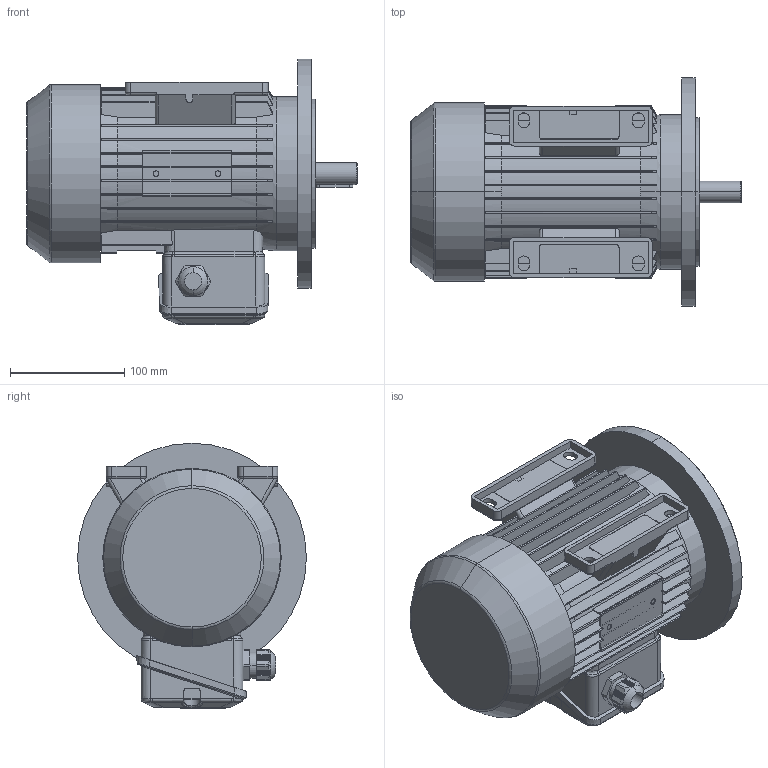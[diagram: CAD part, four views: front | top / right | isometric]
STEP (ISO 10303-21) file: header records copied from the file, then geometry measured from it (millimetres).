
FILE_DESCRIPTION (( 'STEP AP214' ), '1' );
FILE_NAME ('MAP80M2B IM2041 A200 FF165.STEP', '2020-12-18T10:46:54', ( '' ), ( '' ), 'SwSTEP 2.0', 'SolidWorks 2018', '' );
FILE_SCHEMA (( 'AUTOMOTIVE_DESIGN' ));
Length unit declared in the file: millimetre
Products named in the file (1): MAP80M2B IM2041 A200 FF165
Bounding box: 289 x 200 x 232 mm (x, y, z)
Volume: 4560626.1 mm3; surface area: 343888.7 mm2
Topology: 2 solids, 6 shells, 1264 faces, 3335 edges, 2083 vertices
Faces by surface type: plane 635, cylinder 332, bspline 182, torus 59, cone 54, sphere 2
Entity records: 48624 total; most frequent: CARTESIAN_POINT 19273, ORIENTED_EDGE 6594, DIRECTION 5485, EDGE_CURVE 3297, VERTEX_POINT 2083, AXIS2_PLACEMENT_3D 1853, LINE 1779, VECTOR 1779
